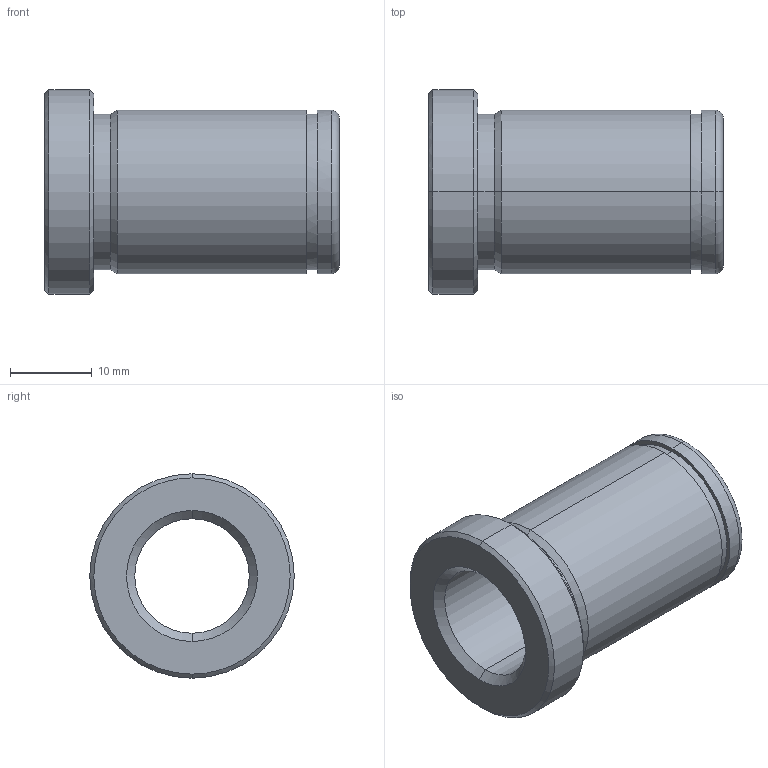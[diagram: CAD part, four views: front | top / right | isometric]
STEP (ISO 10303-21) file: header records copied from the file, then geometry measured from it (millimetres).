
FILE_DESCRIPTION(('CATIA V5 STEP Exchange'),'2;1');
FILE_NAME('C:\Users\Utente\Desktop\IO LAVORO\3D X SITO CF\X SITO\PLASTICA\553\553-14X36.stp','2021-05-21T18:25:38+00:00',('none'),('none'),'CATIA Version 5 Release 20 GA (IN-10)','CATIA V5 STEP AP203','none');
FILE_SCHEMA(('CONFIG_CONTROL_DESIGN'));
Length unit declared in the file: millimetre
Products named in the file (1): 553-14x36
Bounding box: 36 x 25 x 25 mm (x, y, z)
Volume: 6635.9 mm3; surface area: 4576 mm2
Topology: 1 solids, 1 shells, 29 faces, 92 edges, 68 vertices
Faces by surface type: cylinder 12, cone 8, plane 5, torus 4
Entity records: 1222 total; most frequent: CARTESIAN_POINT 368, ORIENTED_EDGE 184, DIRECTION 136, EDGE_CURVE 92, AXIS2_PLACEMENT_3D 88, VERTEX_POINT 68, CIRCLE 58, EDGE_LOOP 34
